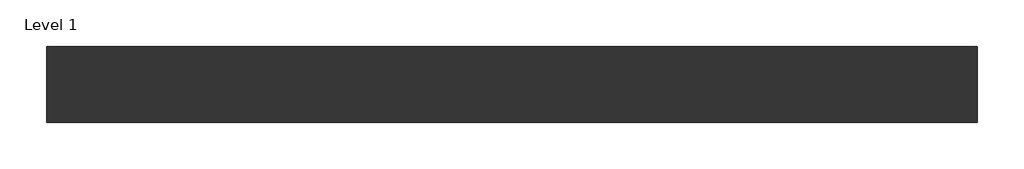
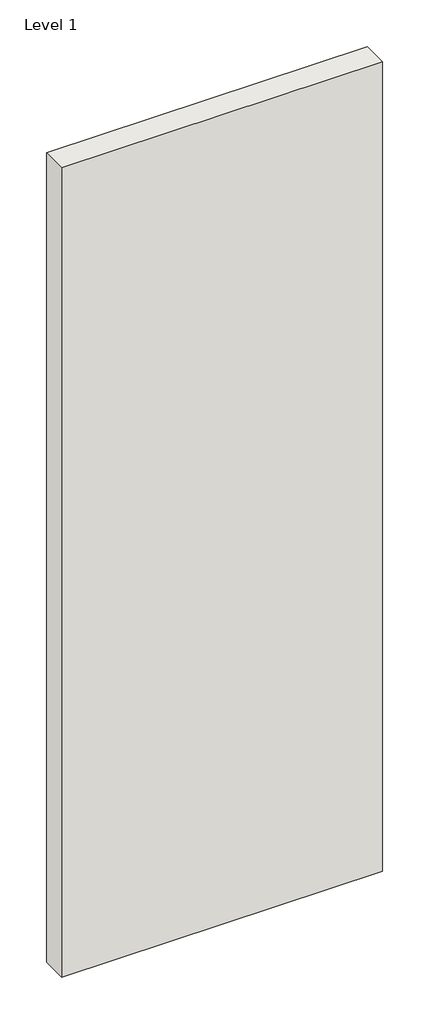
# One storey: 1 wall.
"""IFC4 building model written with IfcOpenShell, lengths in millimetres."""

from ifc_helpers import new_model, si_unit, origin, origin_with_axes, place, context, project, spatial, polyline, outline, extrude, element, save

model = new_model("IFC4")

# Units and contexts
model_context = context("Model", 3, world=origin())
ifc_project = project(units=[si_unit("LENGTHUNIT", "METRE", prefix="MILLI")], contexts=[model_context])

# Site, building, storey
site = spatial("IfcSite", under=ifc_project)
building = spatial("IfcBuilding", under=site)
storey = spatial("IfcBuildingStorey", under=building, Name="Level 1", Elevation=0.0)

# Wall
placement = place(None, origin())
element("IfcWall", 1, ObjectType="Tabique Simple – Placo® Habito® 98(48) HBT13 + BA13 + 48LM + BA13 + HBT13 c/400 - 54,3 dBA", at=placement, inside=storey, context=model_context, shape_type="SweptSolid", body=[
    extrude(outline(polyline([(-27296.4711674, -85067.3970389), (-28496.4711674, -85067.3970389), (-28496.4711674, -84969.3970389), (-27296.4711674, -84969.3970389), (-27296.4711674, -85067.3970389)])), origin_with_axes(), (0.0, 0.0, 1.0), 3200.0),
])

save(model, "model.ifc")
